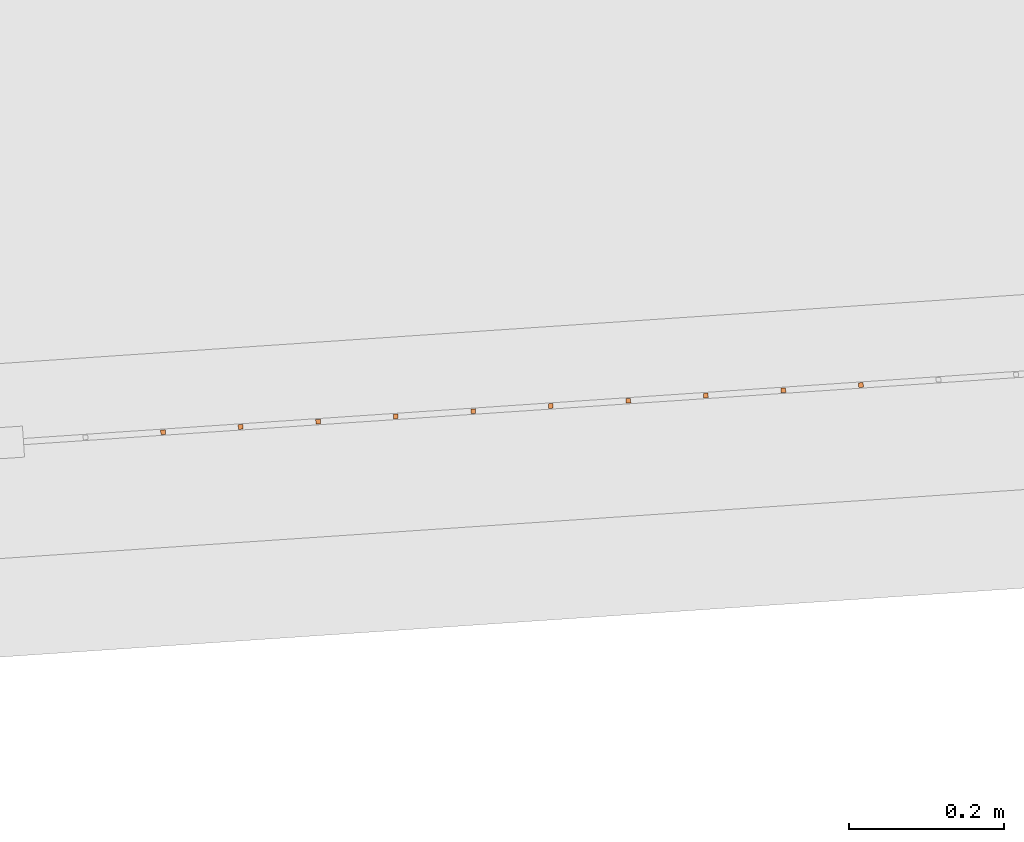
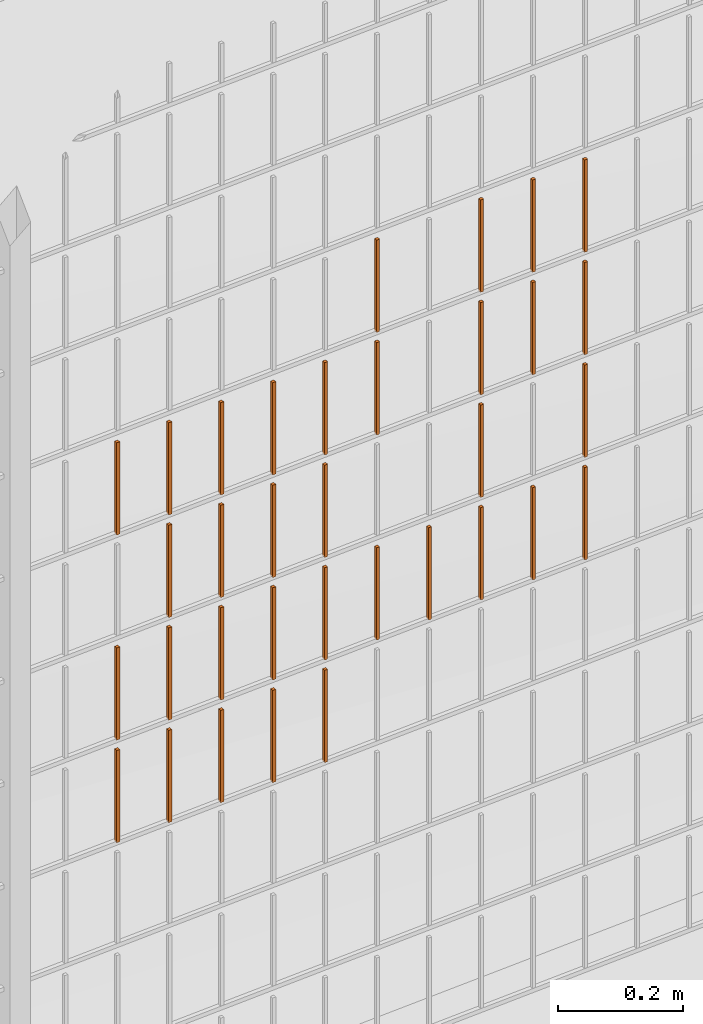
# One storey, part 396 of 1809: 34 proxies, 1 element without a shape of its own.
"""IFC2X3 building model written with IfcOpenShell, lengths in millimetres."""

import ifcopenshell
import ifcopenshell.guid

model = None  # the IFC model being written
_history = None  # IfcOwnerHistory: only IFC2X3 demands one
_inside = {}  # id of a spatial element -> (the spatial element, [elements in it])
_under = {}  # id of a project, library or spatial element -> (it, [spatial elements below it])
_declared = {}  # id of a project -> (the project, [libraries it declares])
_typed = {}  # id of a type object -> (the type object, [elements of that type])
_made_of = {}  # id of a material, layer set ... -> (it, [elements and type objects made of it])


def new_model(schema):
    """Start an empty IFC model of exactly this schema.

    Asked for "IFC4X3", IfcOpenShell would pick the latest addendum, in which some entities
    have other attributes; the version numbers below select the first issue.
    IFC2X3 requires an IfcOwnerHistory on every rooted entity: one is made here for all.
    """
    global model, _history
    if schema == "IFC4X3":
        model = ifcopenshell.file(schema_version=(4, 3, 0, 0))
    else:
        model = ifcopenshell.file(schema=schema)
    _inside.clear()
    _under.clear()
    _declared.clear()
    _typed.clear()
    _made_of.clear()
    _history = None
    if model.schema == "IFC2X3":
        org = make("IfcOrganization", Name="unknown")
        user = make(
            "IfcPersonAndOrganization",
            ThePerson=make("IfcPerson", FamilyName="unknown"),
            TheOrganization=org,
        )
        app = make(
            "IfcApplication",
            ApplicationDeveloper=org,
            Version="unknown",
            ApplicationFullName="unknown",
            ApplicationIdentifier="unknown",
        )
        _history = make(
            "IfcOwnerHistory",
            OwningUser=user,
            OwningApplication=app,
            ChangeAction="ADDED",
            CreationDate=0,
        )
    return model


def make(cls, **values):
    """One entity of the class cls with the attributes given. An attribute that is None is left unset."""
    return model.create_entity(
        cls, **{name: value for name, value in values.items() if value is not None}
    )


def entity(cls, *values):
    """Any entity or typed value of the class cls, its attributes in the order of the schema. None: left unset."""
    e = model.create_entity(cls)
    for i, value in enumerate(values):
        if value is not None:
            e[i] = value
    return e


def rooted(cls, **values):
    """An entity with a GlobalId (a new one), such as an element, a storey or a relation."""
    return make(cls, GlobalId=ifcopenshell.guid.new(), OwnerHistory=_history, **values)


def si_unit(unit_type, name, prefix=None):
    """IfcSIUnit, for example si_unit("LENGTHUNIT", "METRE", prefix="MILLI")."""
    return make("IfcSIUnit", UnitType=unit_type, Prefix=prefix, Name=name)


def converted_unit(unit_type, name, factor, base, dimensions=None, offset=None):
    """IfcConversionBasedUnit, such as the inch: factor (a typed value) times the base unit."""
    return make(
        "IfcConversionBasedUnit"
        if offset is None
        else "IfcConversionBasedUnitWithOffset",
        ConversionOffset=offset,
        Dimensions=None
        if dimensions is None
        else entity("IfcDimensionalExponents", *dimensions),
        UnitType=unit_type,
        Name=name,
        ConversionFactor=make(
            "IfcMeasureWithUnit", ValueComponent=factor, UnitComponent=base
        ),
    )


def derived_unit(unit_type, elements):
    """IfcDerivedUnit: a product of units, each with its exponent."""
    return make(
        "IfcDerivedUnit",
        Elements=[
            make("IfcDerivedUnitElement", Unit=unit, Exponent=power)
            for unit, power in elements
        ],
        UnitType=unit_type,
    )


def money_unit(currency):
    """IfcMonetaryUnit."""
    return make("IfcMonetaryUnit", Currency=currency)


def assignment(units):
    """IfcUnitAssignment: the units of a project."""
    return None if units is None else make("IfcUnitAssignment", Units=units)


def point(xyz):
    """IfcCartesianPoint."""
    return None if xyz is None else make("IfcCartesianPoint", Coordinates=xyz)


def direction(xyz):
    """IfcDirection."""
    return None if xyz is None else make("IfcDirection", DirectionRatios=xyz)


def frame(location, z_axis=None, x_axis=None):
    """IfcAxis2Placement3D, a coordinate frame: its origin and axes. An axis left out is left unset."""
    return make(
        "IfcAxis2Placement3D",
        Location=point(location),
        Axis=direction(z_axis),
        RefDirection=direction(x_axis),
    )


def origin_with_axes():
    """The frame at (0, 0, 0) with the z axis (0, 0, 1) and the x axis (1, 0, 0) written out."""
    return frame((0.0, 0.0, 0.0), z_axis=(0.0, 0.0, 1.0), x_axis=(1.0, 0.0, 0.0))


def place(relative_to, where):
    """IfcLocalPlacement: puts the frame where relative to a parent placement (None: the world)."""
    return make(
        "IfcLocalPlacement", PlacementRelTo=relative_to, RelativePlacement=where
    )


def context(
    kind, dimensions, precision=None, world=None, true_north=None, identifier=None
):
    """IfcGeometricRepresentationContext, for example the 3D "Model" context."""
    return make(
        "IfcGeometricRepresentationContext",
        ContextIdentifier=identifier,
        ContextType=kind,
        CoordinateSpaceDimension=dimensions,
        Precision=precision,
        WorldCoordinateSystem=world,
        TrueNorth=true_north,
    )


def subcontext(parent, identifier, kind, view, scale=None):
    """IfcGeometricRepresentationSubContext, for example "Body" below "Model"."""
    return make(
        "IfcGeometricRepresentationSubContext",
        ContextIdentifier=identifier,
        ContextType=kind,
        ParentContext=parent,
        TargetScale=scale,
        TargetView=view,
    )


def project(units=None, contexts=None):
    """IfcProject with its units and contexts."""
    return rooted(
        "IfcProject",
        Name="project",
        RepresentationContexts=contexts,
        UnitsInContext=assignment(units),
    )


def spatial(cls, under=None, at=None, **own):
    """A site, building, storey or space (cls), placed at a placement, below another one or the project."""
    s = rooted(cls, ObjectPlacement=at, **own)
    if under is not None:
        _under.setdefault(under.id(), (under, []))[1].append(s)
    return s


def faces_of(points, faces, orient=None, outer=None):
    """IfcFace entities. A face is a list of loops; a loop is a list of indices into points, from 0.

    orient and outer hold one flag for each loop. By default every Orientation is true, the
    first loop of a face is its IfcFaceOuterBound and the others are IfcFaceBound.
    """
    made = []
    for i, loops in enumerate(faces):
        bounds = []
        for j, loop in enumerate(loops):
            is_outer = j == 0 if outer is None else outer[i][j]
            bounds.append(
                make(
                    "IfcFaceOuterBound" if is_outer else "IfcFaceBound",
                    Bound=make("IfcPolyLoop", Polygon=[points[k] for k in loop]),
                    Orientation=True if orient is None else orient[i][j],
                )
            )
        made.append(make("IfcFace", Bounds=bounds))
    return made


def faceted_brep(points, faces, orient=None, outer=None, voids=None):
    """IfcFacetedBrep: a solid bounded by flat faces; with voids (closed shells), ...WithVoids."""
    shared = [point(p) for p in points]
    hull = make("IfcClosedShell", CfsFaces=faces_of(shared, faces, orient, outer))
    if voids is None:
        return make("IfcFacetedBrep", Outer=hull)
    return make(
        "IfcFacetedBrepWithVoids",
        Outer=hull,
        Voids=[
            make(cls, CfsFaces=faces_of(shared, fs, o, b)) for cls, fs, o, b in voids
        ],
    )


def shape(context_of_items, identifier, shape_type, items):
    """IfcShapeRepresentation: the items that make up one representation, for example the "Body"."""
    return make(
        "IfcShapeRepresentation",
        ContextOfItems=context_of_items,
        RepresentationIdentifier=identifier,
        RepresentationType=shape_type,
        Items=items,
    )


def source(mapping_origin, context_of_items, identifier, shape_type, items):
    """IfcRepresentationMap: a shape defined once, which mapped items show again and again."""
    return make(
        "IfcRepresentationMap",
        MappingOrigin=mapping_origin,
        MappedRepresentation=shape(context_of_items, identifier, shape_type, items),
    )


def transform(
    local_origin,
    x_axis=None,
    y_axis=None,
    z_axis=None,
    scale=None,
    scale2=None,
    scale3=None,
    uniform=True,
):
    """IfcCartesianTransformationOperator3D, or its non-uniform kind. x_axis, y_axis, z_axis: its Axis1, 2, 3."""
    if uniform:
        return make(
            "IfcCartesianTransformationOperator3D",
            Axis1=direction(x_axis),
            Axis2=direction(y_axis),
            LocalOrigin=point(local_origin),
            Scale=scale,
            Axis3=direction(z_axis),
        )
    return make(
        "IfcCartesianTransformationOperator3DnonUniform",
        Axis1=direction(x_axis),
        Axis2=direction(y_axis),
        LocalOrigin=point(local_origin),
        Scale=scale,
        Axis3=direction(z_axis),
        Scale2=scale2,
        Scale3=scale3,
    )


def mapped(mapping_source, mapping_target):
    """IfcMappedItem: shows the shape of a source again, moved by a transform."""
    return make(
        "IfcMappedItem", MappingSource=mapping_source, MappingTarget=mapping_target
    )


def material(Name=None, Category=None):
    """IfcMaterial."""
    return make("IfcMaterial", Name=Name, Category=Category)


def made_of(thing, what):
    """Note that an element or type object is made of a material, layer set ...; save() writes the relation."""
    if what is not None:
        _made_of.setdefault(what.id(), (what, []))[1].append(thing)
    return thing


def type_object(cls, material=None, **own):
    """A type object (cls), such as IfcWallType, which elements share."""
    return made_of(rooted(cls, **own), material)


def element(
    cls,
    number,
    at=None,
    inside=None,
    cuts=None,
    type_object=None,
    material=None,
    context=None,
    identifier="Body",
    shape_type=None,
    held_by="IfcProductDefinitionShape",
    body=None,
    shapes=None,
    **own,
):
    """One element of the class cls, such as IfcWall. Its Tag is "e" and its number.

    at: its placement. inside: the storey or other place that contains it. cuts: it is an
    opening in that element (IfcRelVoidsElement). A single representation is given by context,
    identifier, shape_type and body (its items); several are given by shapes. held_by: the class
    of the entity that holds the representations. save() writes the other relations.
    """
    e = rooted(cls, Tag="e%d" % number, ObjectPlacement=at, **own)
    if body is not None:
        shapes = [shape(context, identifier, shape_type, body)]
    if shapes is not None:
        e.Representation = make(held_by, Representations=shapes)
    if inside is not None:
        _inside.setdefault(inside.id(), (inside, []))[1].append(e)
    if cuts is not None:
        rooted(
            "IfcRelVoidsElement", RelatingBuildingElement=cuts, RelatedOpeningElement=e
        )
    if type_object is not None:
        _typed.setdefault(type_object.id(), (type_object, []))[1].append(e)
    return made_of(e, material)


def aggregate(whole, parts):
    """IfcRelAggregates: a whole, such as a stair, and the parts it consists of."""
    return rooted("IfcRelAggregates", RelatingObject=whole, RelatedObjects=parts)


def save(model, path):
    """Write the relations noted so far, then the file.

    IfcRelAggregates (storeys below a building ...), IfcRelContainedInSpatialStructure (elements
    in a storey), IfcRelDefinesByType, IfcRelAssociatesMaterial and IfcRelDeclares: one each for
    every whole, place, type object, material and project.
    """
    for whole, parts in _under.values():
        aggregate(whole, parts)
    for where, things in _inside.values():
        rooted(
            "IfcRelContainedInSpatialStructure",
            RelatedElements=things,
            RelatingStructure=where,
        )
    for kind, things in _typed.values():
        rooted("IfcRelDefinesByType", RelatedObjects=things, RelatingType=kind)
    for what, things in _made_of.values():
        rooted("IfcRelAssociatesMaterial", RelatedObjects=things, RelatingMaterial=what)
    for by, libraries in _declared.values():
        rooted("IfcRelDeclares", RelatingContext=by, RelatedDefinitions=libraries)
    model.write(path)


model = new_model("IFC2X3")

# Units and contexts
model_context = context("Model", 3, precision=0.01, world=origin_with_axes(), true_north=direction((0.0, 1.0)))
body_context = subcontext(model_context, "Body", "Model", "MODEL_VIEW")
ifc_project = project(units=[si_unit("LENGTHUNIT", "METRE", prefix="MILLI"), si_unit("AREAUNIT", "SQUARE_METRE"), si_unit("VOLUMEUNIT", "CUBIC_METRE"), converted_unit("PLANEANGLEUNIT", "DEGREE", entity("IfcPlaneAngleMeasure", 0.0174532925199), si_unit("PLANEANGLEUNIT", "RADIAN"), dimensions=[0, 0, 0, 0, 0, 0, 0]), si_unit("SOLIDANGLEUNIT", "STERADIAN"), money_unit("EUR"), converted_unit("TIMEUNIT", "Year", entity("IfcTimeMeasure", 31556926.0), si_unit("TIMEUNIT", "SECOND"), dimensions=[0, 0, 1, 0, 0, 0, 0]), si_unit("MASSUNIT", "GRAM", prefix="KILO"), si_unit("THERMODYNAMICTEMPERATUREUNIT", "DEGREE_CELSIUS"), si_unit("LUMINOUSINTENSITYUNIT", "LUMEN"), si_unit("ENERGYUNIT", "JOULE", prefix="MEGA"), derived_unit("THERMALCONDUCTANCEUNIT", [(si_unit("POWERUNIT", "WATT"), 1), (si_unit("LENGTHUNIT", "METRE"), -1), (si_unit("THERMODYNAMICTEMPERATUREUNIT", "KELVIN"), -1)]), derived_unit("SPECIFICHEATCAPACITYUNIT", [(si_unit("ENERGYUNIT", "JOULE"), 1), (si_unit("MASSUNIT", "GRAM", prefix="KILO"), -1), (si_unit("THERMODYNAMICTEMPERATUREUNIT", "KELVIN"), -1)]), derived_unit("MASSDENSITYUNIT", [(si_unit("MASSUNIT", "GRAM", prefix="KILO"), 1), (si_unit("VOLUMEUNIT", "CUBIC_METRE"), -1)])], contexts=[model_context])

# Site, building, storey
site_placement = place(None, origin_with_axes())
site = spatial("IfcSite", under=ifc_project, at=site_placement, Name="Politse- ja Piirivalveameti ning Päästeameti ühishoone", CompositionType="ELEMENT")
building_placement = place(site_placement, origin_with_axes())
building = spatial("IfcBuilding", under=site, at=building_placement, Name="Politse- ja Piirivalveameti ning Päästeameti ühishoone", CompositionType="ELEMENT")
storey_placement = place(building_placement, origin_with_axes())
storey = spatial("IfcBuildingStorey", under=building, at=storey_placement, Name="Esimene korrus", CompositionType="ELEMENT", Elevation=0.0)

# Proxies
building_element_proxy_type_1 = type_object("IfcBuildingElementProxyType", Name="Railing Type", PredefinedType="NOTDEFINED")
proxy_1_placement = place(storey_placement, frame((89252.001212, -29183.4766571, 203.661247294), z_axis=(0.0, 0.0, 1.0), x_axis=(1.0, 0.0, 0.0)))
proxy_1 = element("IfcBuildingElementProxy", 1, at=proxy_1_placement, inside=storey, type_object=building_element_proxy_type_1, Name="PIIRDEAED")
ifc_material = material(Name="ET-03_Raud")
building_element_proxy_type_2 = type_object("IfcBuildingElementProxyType", Name="IfcBuildingElementProxy", PredefinedType="NOTDEFINED")
shared_shape_1 = source(origin_with_axes(), body_context, "Body", "Brep", [
    faceted_brep([(3.0, 3.0, -0.000752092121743), (-3.0, 3.0, -0.000752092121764), (-3.0, 3.0, 179.99926046), (3.0, 3.0, 179.99926046), (3.0, -3.0, 0.000752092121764), (-3.0, -3.0, 0.000752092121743), (-3.0, -3.0, 180.000764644), (3.0, -3.0, 180.000764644)], [[[0, 1, 2, 3]], [[0, 4, 5, 1]], [[1, 5, 6, 2]], [[3, 2, 6, 7]], [[4, 0, 3, 7]], [[5, 4, 7, 6]]]),
])
proxy_2_placement = place(proxy_1_placement, frame((-11201.1644338, -18054.3711474, 1424.41988432), z_axis=(0.0, 0.0, 1.0), x_axis=(1.0, 0.0, 0.0)))
proxy_2 = element("IfcBuildingElementProxy", 2, at=proxy_2_placement, type_object=building_element_proxy_type_2, material=ifc_material, Name="BALUSTER - 001", context=body_context, shape_type="MappedRepresentation", body=[
    mapped(shared_shape_1, transform((0.0, 0.0, 0.0), x_axis=(-0.0673926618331, 0.997726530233, 0.0), y_axis=(-0.997726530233, -0.0673926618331, 0.0), z_axis=(0.0, 0.0, 1.0))),
])
shared_shape_2 = source(origin_with_axes(), body_context, "Body", "Brep", [
    faceted_brep([(3.0, 3.0, -0.000752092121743), (-3.0, 3.0, -0.000752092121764), (-3.0, 3.0, 179.99926046), (3.0, 3.0, 179.99926046), (3.0, -3.0, 0.000752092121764), (-3.0, -3.0, 0.000752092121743), (-3.0, -3.0, 180.000764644), (3.0, -3.0, 180.000764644)], [[[0, 1, 2, 3]], [[0, 4, 5, 1]], [[1, 5, 6, 2]], [[3, 2, 6, 7]], [[4, 0, 3, 7]], [[5, 4, 7, 6]]]),
])
proxy_3_placement = place(proxy_1_placement, frame((-11799.8003519, -18094.8067445, 624.269465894), z_axis=(0.0, 0.0, 1.0), x_axis=(1.0, 0.0, 0.0)))
proxy_3 = element("IfcBuildingElementProxy", 3, at=proxy_3_placement, type_object=building_element_proxy_type_2, material=ifc_material, Name="BALUSTER - 001", context=body_context, shape_type="MappedRepresentation", body=[
    mapped(shared_shape_2, transform((0.0, 0.0, 0.0), x_axis=(-0.0673926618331, 0.997726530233, 0.0), y_axis=(-0.997726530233, -0.0673926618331, 0.0), z_axis=(0.0, 0.0, 1.0))),
])
shared_shape_3 = source(origin_with_axes(), body_context, "Body", "Brep", [
    faceted_brep([(3.0, 3.0, -0.000752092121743), (-3.0, 3.0, -0.000752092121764), (-3.0, 3.0, 179.99926046), (3.0, 3.0, 179.99926046), (3.0, -3.0, 0.000752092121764), (-3.0, -3.0, 0.000752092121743), (-3.0, -3.0, 180.000764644), (3.0, -3.0, 180.000764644)], [[[0, 1, 2, 3]], [[0, 4, 5, 1]], [[1, 5, 6, 2]], [[3, 2, 6, 7]], [[4, 0, 3, 7]], [[5, 4, 7, 6]]]),
])
proxy_4_placement = place(proxy_1_placement, frame((-11201.1644338, -18054.3711474, 1224.41988432), z_axis=(0.0, 0.0, 1.0), x_axis=(1.0, 0.0, 0.0)))
proxy_4 = element("IfcBuildingElementProxy", 4, at=proxy_4_placement, type_object=building_element_proxy_type_2, material=ifc_material, Name="BALUSTER - 001", context=body_context, shape_type="MappedRepresentation", body=[
    mapped(shared_shape_3, transform((0.0, 0.0, 0.0), x_axis=(-0.0673926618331, 0.997726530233, 0.0), y_axis=(-0.997726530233, -0.0673926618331, 0.0), z_axis=(0.0, 0.0, 1.0))),
])
shared_shape_4 = source(origin_with_axes(), body_context, "Body", "Brep", [
    faceted_brep([(3.0, 3.0, -0.000752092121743), (-3.0, 3.0, -0.000752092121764), (-3.0, 3.0, 179.99926046), (3.0, 3.0, 179.99926046), (3.0, -3.0, 0.000752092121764), (-3.0, -3.0, 0.000752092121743), (-3.0, -3.0, 180.000764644), (3.0, -3.0, 180.000764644)], [[[0, 1, 2, 3]], [[0, 4, 5, 1]], [[1, 5, 6, 2]], [[3, 2, 6, 7]], [[4, 0, 3, 7]], [[5, 4, 7, 6]]]),
])
proxy_5_placement = place(proxy_1_placement, frame((-11799.8003519, -18094.8067445, 824.269465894), z_axis=(0.0, 0.0, 1.0), x_axis=(1.0, 0.0, 0.0)))
proxy_5 = element("IfcBuildingElementProxy", 5, at=proxy_5_placement, type_object=building_element_proxy_type_2, material=ifc_material, Name="BALUSTER - 001", context=body_context, shape_type="MappedRepresentation", body=[
    mapped(shared_shape_4, transform((0.0, 0.0, 0.0), x_axis=(-0.0673926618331, 0.997726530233, 0.0), y_axis=(-0.997726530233, -0.0673926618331, 0.0), z_axis=(0.0, 0.0, 1.0))),
])
proxy_6_placement = place(proxy_1_placement, frame((-11899.573005, -18101.5460107, 824.244396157), z_axis=(0.0, 0.0, 1.0), x_axis=(1.0, 0.0, 0.0)))
proxy_6 = element("IfcBuildingElementProxy", 6, at=proxy_6_placement, type_object=building_element_proxy_type_2, material=ifc_material, Name="BALUSTER - 001", context=body_context, shape_type="MappedRepresentation", body=[
    mapped(shared_shape_4, transform((0.0, 0.0, 0.0), x_axis=(-0.0673926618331, 0.997726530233, 0.0), y_axis=(-0.997726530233, -0.0673926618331, 0.0), z_axis=(0.0, 0.0, 1.0))),
])
proxy_7_placement = place(proxy_1_placement, frame((-11899.573005, -18101.5460107, 1224.24439616), z_axis=(0.0, 0.0, 1.0), x_axis=(1.0, 0.0, 0.0)))
proxy_7 = element("IfcBuildingElementProxy", 7, at=proxy_7_placement, type_object=building_element_proxy_type_2, material=ifc_material, Name="BALUSTER - 001", context=body_context, shape_type="MappedRepresentation", body=[
    mapped(shared_shape_4, transform((0.0, 0.0, 0.0), x_axis=(-0.0673926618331, 0.997726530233, 0.0), y_axis=(-0.997726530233, -0.0673926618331, 0.0), z_axis=(0.0, 0.0, 1.0))),
])
shared_shape_5 = source(origin_with_axes(), body_context, "Body", "Brep", [
    faceted_brep([(3.0, 3.0, -0.000752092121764), (-3.0, 3.0, -0.000752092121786), (-3.0, 3.0, 179.99926046), (3.0, 3.0, 179.99926046), (3.0, -3.0, 0.000752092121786), (-3.0, -3.0, 0.000752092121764), (-3.0, -3.0, 180.000764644), (3.0, -3.0, 180.000764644)], [[[0, 1, 2, 3]], [[0, 4, 5, 1]], [[1, 5, 6, 2]], [[3, 2, 6, 7]], [[4, 0, 3, 7]], [[5, 4, 7, 6]]]),
])
proxy_8_placement = place(proxy_1_placement, frame((-11999.345658, -18108.2852769, 624.219326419), z_axis=(0.0, 0.0, 1.0), x_axis=(1.0, 0.0, 0.0)))
proxy_8 = element("IfcBuildingElementProxy", 8, at=proxy_8_placement, type_object=building_element_proxy_type_2, material=ifc_material, Name="BALUSTER - 001", context=body_context, shape_type="MappedRepresentation", body=[
    mapped(shared_shape_5, transform((0.0, 0.0, 0.0), x_axis=(-0.0673926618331, 0.997726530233, 0.0), y_axis=(-0.997726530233, -0.0673926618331, 0.0), z_axis=(0.0, 0.0, 1.0))),
])
shared_shape_6 = source(origin_with_axes(), body_context, "Body", "Brep", [
    faceted_brep([(3.0, 3.0, -0.000752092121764), (-3.0, 3.0, -0.000752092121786), (-3.0, 3.0, 179.99926046), (3.0, 3.0, 179.99926046), (3.0, -3.0, 0.000752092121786), (-3.0, -3.0, 0.000752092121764), (-3.0, -3.0, 180.000764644), (3.0, -3.0, 180.000764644)], [[[0, 1, 2, 3]], [[0, 4, 5, 1]], [[1, 5, 6, 2]], [[3, 2, 6, 7]], [[4, 0, 3, 7]], [[5, 4, 7, 6]]]),
])
proxy_9_placement = place(proxy_1_placement, frame((-11300.9370868, -18061.1104136, 824.394814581), z_axis=(0.0, 0.0, 1.0), x_axis=(1.0, 0.0, 0.0)))
proxy_9 = element("IfcBuildingElementProxy", 9, at=proxy_9_placement, type_object=building_element_proxy_type_2, material=ifc_material, Name="BALUSTER - 001", context=body_context, shape_type="MappedRepresentation", body=[
    mapped(shared_shape_6, transform((0.0, 0.0, 0.0), x_axis=(-0.0673926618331, 0.997726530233, 0.0), y_axis=(-0.997726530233, -0.0673926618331, 0.0), z_axis=(0.0, 0.0, 1.0))),
])
proxy_10_placement = place(proxy_1_placement, frame((-11400.7097398, -18067.8496798, 1224.36974484), z_axis=(0.0, 0.0, 1.0), x_axis=(1.0, 0.0, 0.0)))
proxy_10 = element("IfcBuildingElementProxy", 10, at=proxy_10_placement, type_object=building_element_proxy_type_2, material=ifc_material, Name="BALUSTER - 001", context=body_context, shape_type="MappedRepresentation", body=[
    mapped(shared_shape_6, transform((0.0, 0.0, 0.0), x_axis=(-0.0673926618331, 0.997726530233, 0.0), y_axis=(-0.997726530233, -0.0673926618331, 0.0), z_axis=(0.0, 0.0, 1.0))),
])
proxy_11_placement = place(proxy_1_placement, frame((-11999.345658, -18108.2852769, 1224.21932642), z_axis=(0.0, 0.0, 1.0), x_axis=(1.0, 0.0, 0.0)))
proxy_11 = element("IfcBuildingElementProxy", 11, at=proxy_11_placement, type_object=building_element_proxy_type_2, material=ifc_material, Name="BALUSTER - 001", context=body_context, shape_type="MappedRepresentation", body=[
    mapped(shared_shape_6, transform((0.0, 0.0, 0.0), x_axis=(-0.0673926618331, 0.997726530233, 0.0), y_axis=(-0.997726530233, -0.0673926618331, 0.0), z_axis=(0.0, 0.0, 1.0))),
])
shared_shape_7 = source(origin_with_axes(), body_context, "Body", "Brep", [
    faceted_brep([(3.0, 3.0, -0.000752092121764), (-3.0, 3.0, -0.000752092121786), (-3.0, 3.0, 179.99926046), (3.0, 3.0, 179.99926046), (3.0, -3.0, 0.000752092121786), (-3.0, -3.0, 0.000752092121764), (-3.0, -3.0, 180.000764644), (3.0, -3.0, 180.000764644)], [[[0, 1, 2, 3]], [[0, 4, 5, 1]], [[1, 5, 6, 2]], [[3, 2, 6, 7]], [[4, 0, 3, 7]], [[5, 4, 7, 6]]]),
])
proxy_12_placement = place(proxy_1_placement, frame((-11400.7097398, -18067.8496798, 824.369744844), z_axis=(0.0, 0.0, 1.0), x_axis=(1.0, 0.0, 0.0)))
proxy_12 = element("IfcBuildingElementProxy", 12, at=proxy_12_placement, type_object=building_element_proxy_type_2, material=ifc_material, Name="BALUSTER - 001", context=body_context, shape_type="MappedRepresentation", body=[
    mapped(shared_shape_7, transform((0.0, 0.0, 0.0), x_axis=(-0.0673926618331, 0.997726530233, 0.0), y_axis=(-0.997726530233, -0.0673926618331, 0.0), z_axis=(0.0, 0.0, 1.0))),
])
proxy_13_placement = place(proxy_1_placement, frame((-11999.345658, -18108.2852769, 824.219326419), z_axis=(0.0, 0.0, 1.0), x_axis=(1.0, 0.0, 0.0)))
proxy_13 = element("IfcBuildingElementProxy", 13, at=proxy_13_placement, type_object=building_element_proxy_type_2, material=ifc_material, Name="BALUSTER - 001", context=body_context, shape_type="MappedRepresentation", body=[
    mapped(shared_shape_7, transform((0.0, 0.0, 0.0), x_axis=(-0.0673926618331, 0.997726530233, 0.0), y_axis=(-0.997726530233, -0.0673926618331, 0.0), z_axis=(0.0, 0.0, 1.0))),
])
proxy_14_placement = place(proxy_1_placement, frame((-11300.9370868, -18061.1104136, 1224.39481458), z_axis=(0.0, 0.0, 1.0), x_axis=(1.0, 0.0, 0.0)))
proxy_14 = element("IfcBuildingElementProxy", 14, at=proxy_14_placement, type_object=building_element_proxy_type_2, material=ifc_material, Name="BALUSTER - 001", context=body_context, shape_type="MappedRepresentation", body=[
    mapped(shared_shape_7, transform((0.0, 0.0, 0.0), x_axis=(-0.0673926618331, 0.997726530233, 0.0), y_axis=(-0.997726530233, -0.0673926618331, 0.0), z_axis=(0.0, 0.0, 1.0))),
])
shared_shape_8 = source(origin_with_axes(), body_context, "Body", "Brep", [
    faceted_brep([(3.0, 3.0, -0.000752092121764), (-3.0, 3.0, -0.000752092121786), (-3.0, 3.0, 179.99926046), (3.0, 3.0, 179.99926046), (3.0, -3.0, 0.000752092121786), (-3.0, -3.0, 0.000752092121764), (-3.0, -3.0, 180.000764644), (3.0, -3.0, 180.000764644)], [[[0, 1, 2, 3]], [[0, 4, 5, 1]], [[1, 5, 6, 2]], [[3, 2, 6, 7]], [[4, 0, 3, 7]], [[5, 4, 7, 6]]]),
])
proxy_15_placement = place(proxy_1_placement, frame((-11201.1644338, -18054.3711474, 824.419884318), z_axis=(0.0, 0.0, 1.0), x_axis=(1.0, 0.0, 0.0)))
proxy_15 = element("IfcBuildingElementProxy", 15, at=proxy_15_placement, type_object=building_element_proxy_type_2, material=ifc_material, Name="BALUSTER - 001", context=body_context, shape_type="MappedRepresentation", body=[
    mapped(shared_shape_8, transform((0.0, 0.0, 0.0), x_axis=(-0.0673926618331, 0.997726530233, 0.0), y_axis=(-0.997726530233, -0.0673926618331, 0.0), z_axis=(0.0, 0.0, 1.0))),
])
proxy_16_placement = place(proxy_1_placement, frame((-12099.118311, -18115.0245431, 1224.19425668), z_axis=(0.0, 0.0, 1.0), x_axis=(1.0, 0.0, 0.0)))
proxy_16 = element("IfcBuildingElementProxy", 16, at=proxy_16_placement, type_object=building_element_proxy_type_2, material=ifc_material, Name="BALUSTER - 001", context=body_context, shape_type="MappedRepresentation", body=[
    mapped(shared_shape_8, transform((0.0, 0.0, 0.0), x_axis=(-0.0673926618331, 0.997726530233, 0.0), y_axis=(-0.997726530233, -0.0673926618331, 0.0), z_axis=(0.0, 0.0, 1.0))),
])
shared_shape_9 = source(origin_with_axes(), body_context, "Body", "Brep", [
    faceted_brep([(3.0, 3.0, -0.000752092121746), (-3.0, 3.0, -0.000752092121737), (-3.00000000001, 2.99999999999, 179.99926046), (2.99999999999, 2.99999999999, 179.99926046), (3.0, -3.0, 0.000752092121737), (-3.0, -3.0, 0.000752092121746), (-3.00000000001, -3.00000000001, 180.000764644), (2.99999999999, -3.00000000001, 180.000764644)], [[[0, 1, 2, 3]], [[0, 4, 5, 1]], [[1, 5, 6, 2]], [[3, 2, 6, 7]], [[4, 0, 3, 7]], [[5, 4, 7, 6]]]),
])
proxy_17_placement = place(proxy_1_placement, frame((-11899.573005, -18101.5460107, 1024.24439616), z_axis=(0.0, 0.0, 1.0), x_axis=(1.0, 0.0, 0.0)))
proxy_17 = element("IfcBuildingElementProxy", 17, at=proxy_17_placement, type_object=building_element_proxy_type_2, material=ifc_material, Name="BALUSTER - 001", context=body_context, shape_type="MappedRepresentation", body=[
    mapped(shared_shape_9, transform((0.0, 0.0, 0.0), x_axis=(-0.0673926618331, 0.997726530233, 0.0), y_axis=(-0.997726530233, -0.0673926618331, 0.0), z_axis=(0.0, 0.0, 1.0))),
])
shared_shape_10 = source(origin_with_axes(), body_context, "Body", "Brep", [
    faceted_brep([(3.0, 3.0, -0.000752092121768), (-3.0, 3.0, -0.000752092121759), (-3.00000000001, 2.99999999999, 179.99926046), (2.99999999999, 2.99999999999, 179.99926046), (3.0, -3.0, 0.000752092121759), (-3.0, -3.0, 0.000752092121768), (-3.00000000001, -3.00000000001, 180.000764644), (2.99999999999, -3.00000000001, 180.000764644)], [[[0, 1, 2, 3]], [[0, 4, 5, 1]], [[1, 5, 6, 2]], [[3, 2, 6, 7]], [[4, 0, 3, 7]], [[5, 4, 7, 6]]]),
])
proxy_18_placement = place(proxy_1_placement, frame((-11201.1644338, -18054.3711474, 1024.41988432), z_axis=(0.0, 0.0, 1.0), x_axis=(1.0, 0.0, 0.0)))
proxy_18 = element("IfcBuildingElementProxy", 18, at=proxy_18_placement, type_object=building_element_proxy_type_2, material=ifc_material, Name="BALUSTER - 001", context=body_context, shape_type="MappedRepresentation", body=[
    mapped(shared_shape_10, transform((0.0, 0.0, 0.0), x_axis=(-0.0673926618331, 0.997726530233, 0.0), y_axis=(-0.997726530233, -0.0673926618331, 0.0), z_axis=(0.0, 0.0, 1.0))),
])
shared_shape_11 = source(origin_with_axes(), body_context, "Body", "Brep", [
    faceted_brep([(3.0, 3.0, -0.000752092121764), (-3.0, 3.0, -0.000752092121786), (-3.0, 3.0, 179.99926046), (3.0, 3.0, 179.99926046), (3.0, -3.0, 0.000752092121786), (-3.0, -3.0, 0.000752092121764), (-3.0, -3.0, 180.000764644), (3.0, -3.0, 180.000764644)], [[[0, 1, 2, 3]], [[0, 4, 5, 1]], [[1, 5, 6, 2]], [[3, 2, 6, 7]], [[4, 0, 3, 7]], [[5, 4, 7, 6]]]),
])
proxy_19_placement = place(proxy_1_placement, frame((-11700.0276989, -18088.0674784, 1224.29453563), z_axis=(0.0, 0.0, 1.0), x_axis=(1.0, 0.0, 0.0)))
proxy_19 = element("IfcBuildingElementProxy", 19, at=proxy_19_placement, type_object=building_element_proxy_type_2, material=ifc_material, Name="BALUSTER - 001", context=body_context, shape_type="MappedRepresentation", body=[
    mapped(shared_shape_11, transform((0.0, 0.0, 0.0), x_axis=(-0.0673926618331, 0.997726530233, 0.0), y_axis=(-0.997726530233, -0.0673926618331, 0.0), z_axis=(0.0, 0.0, 1.0))),
])
shared_shape_12 = source(origin_with_axes(), body_context, "Body", "Brep", [
    faceted_brep([(3.0, 3.0, -0.000752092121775), (-3.0, 3.0, -0.000752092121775), (-3.0, 3.0, 179.99926046), (3.0, 3.0, 179.99926046), (3.0, -3.0, 0.000752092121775), (-3.0, -3.0, 0.000752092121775), (-3.0, -3.0, 180.000764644), (3.0, -3.0, 180.000764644)], [[[0, 1, 2, 3]], [[0, 4, 5, 1]], [[1, 5, 6, 2]], [[3, 2, 6, 7]], [[4, 0, 3, 7]], [[5, 4, 7, 6]]]),
])
proxy_20_placement = place(proxy_1_placement, frame((-11700.0276989, -18088.0674784, 824.294535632), z_axis=(0.0, 0.0, 1.0), x_axis=(1.0, 0.0, 0.0)))
proxy_20 = element("IfcBuildingElementProxy", 20, at=proxy_20_placement, type_object=building_element_proxy_type_2, material=ifc_material, Name="BALUSTER - 001", context=body_context, shape_type="MappedRepresentation", body=[
    mapped(shared_shape_12, transform((0.0, 0.0, 0.0), x_axis=(-0.0673926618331, 0.997726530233, 0.0), y_axis=(-0.997726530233, -0.0673926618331, 0.0), z_axis=(0.0, 0.0, 1.0))),
])
shared_shape_13 = source(origin_with_axes(), body_context, "Body", "Brep", [
    faceted_brep([(3.0, 3.0, -0.000752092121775), (-3.0, 3.0, -0.000752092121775), (-3.0, 3.0, 179.99926046), (3.0, 3.0, 179.99926046), (3.0, -3.0, 0.000752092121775), (-3.0, -3.0, 0.000752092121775), (-3.0, -3.0, 180.000764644), (3.0, -3.0, 180.000764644)], [[[0, 1, 2, 3]], [[0, 4, 5, 1]], [[1, 5, 6, 2]], [[3, 2, 6, 7]], [[4, 0, 3, 7]], [[5, 4, 7, 6]]]),
])
proxy_21_placement = place(proxy_1_placement, frame((-12099.118311, -18115.0245431, 824.194256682), z_axis=(0.0, 0.0, 1.0), x_axis=(1.0, 0.0, 0.0)))
proxy_21 = element("IfcBuildingElementProxy", 21, at=proxy_21_placement, type_object=building_element_proxy_type_2, material=ifc_material, Name="BALUSTER - 001", context=body_context, shape_type="MappedRepresentation", body=[
    mapped(shared_shape_13, transform((0.0, 0.0, 0.0), x_axis=(-0.0673926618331, 0.997726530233, 0.0), y_axis=(-0.997726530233, -0.0673926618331, 0.0), z_axis=(0.0, 0.0, 1.0))),
])
shared_shape_14 = source(origin_with_axes(), body_context, "Body", "Brep", [
    faceted_brep([(3.0, 3.0, -0.000752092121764), (-3.0, 3.0, -0.000752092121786), (-3.0, 3.0, 179.99926046), (3.0, 3.0, 179.99926046), (3.0, -3.0, 0.000752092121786), (-3.0, -3.0, 0.000752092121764), (-3.0, -3.0, 180.000764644), (3.0, -3.0, 180.000764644)], [[[0, 1, 2, 3]], [[0, 4, 5, 1]], [[1, 5, 6, 2]], [[3, 2, 6, 7]], [[4, 0, 3, 7]], [[5, 4, 7, 6]]]),
])
proxy_22_placement = place(proxy_1_placement, frame((-11300.9370868, -18061.1104136, 1424.39481458), z_axis=(0.0, 0.0, 1.0), x_axis=(1.0, 0.0, 0.0)))
proxy_22 = element("IfcBuildingElementProxy", 22, at=proxy_22_placement, type_object=building_element_proxy_type_2, material=ifc_material, Name="BALUSTER - 001", context=body_context, shape_type="MappedRepresentation", body=[
    mapped(shared_shape_14, transform((0.0, 0.0, 0.0), x_axis=(-0.0673926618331, 0.997726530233, 0.0), y_axis=(-0.997726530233, -0.0673926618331, 0.0), z_axis=(0.0, 0.0, 1.0))),
])
shared_shape_15 = source(origin_with_axes(), body_context, "Body", "Brep", [
    faceted_brep([(3.0, 3.0, -0.000752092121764), (-3.0, 3.0, -0.000752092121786), (-3.0, 3.0, 179.99926046), (3.0, 3.0, 179.99926046), (3.0, -3.0, 0.000752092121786), (-3.0, -3.0, 0.000752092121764), (-3.0, -3.0, 180.000764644), (3.0, -3.0, 180.000764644)], [[[0, 1, 2, 3]], [[0, 4, 5, 1]], [[1, 5, 6, 2]], [[3, 2, 6, 7]], [[4, 0, 3, 7]], [[5, 4, 7, 6]]]),
])
proxy_23_placement = place(proxy_1_placement, frame((-11400.7097398, -18067.8496798, 1424.36974484), z_axis=(0.0, 0.0, 1.0), x_axis=(1.0, 0.0, 0.0)))
proxy_23 = element("IfcBuildingElementProxy", 23, at=proxy_23_placement, type_object=building_element_proxy_type_2, material=ifc_material, Name="BALUSTER - 001", context=body_context, shape_type="MappedRepresentation", body=[
    mapped(shared_shape_15, transform((0.0, 0.0, 0.0), x_axis=(-0.0673926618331, 0.997726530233, 0.0), y_axis=(-0.997726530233, -0.0673926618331, 0.0), z_axis=(0.0, 0.0, 1.0))),
])
shared_shape_16 = source(origin_with_axes(), body_context, "Body", "Brep", [
    faceted_brep([(3.0, 3.0, -0.000752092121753), (-3.0, 3.0, -0.000752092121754), (-3.0, 3.0, 179.99926046), (3.0, 3.0, 179.99926046), (3.0, -3.0, 0.000752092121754), (-3.0, -3.0, 0.000752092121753), (-3.0, -3.0, 180.000764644), (3.0, -3.0, 180.000764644)], [[[0, 1, 2, 3]], [[0, 4, 5, 1]], [[1, 5, 6, 2]], [[3, 2, 6, 7]], [[4, 0, 3, 7]], [[5, 4, 7, 6]]]),
])
proxy_24_placement = place(proxy_1_placement, frame((-11500.4823929, -18074.588946, 824.344675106), z_axis=(0.0, 0.0, 1.0), x_axis=(1.0, 0.0, 0.0)))
proxy_24 = element("IfcBuildingElementProxy", 24, at=proxy_24_placement, type_object=building_element_proxy_type_2, material=ifc_material, Name="BALUSTER - 001", context=body_context, shape_type="MappedRepresentation", body=[
    mapped(shared_shape_16, transform((0.0, 0.0, 0.0), x_axis=(-0.0673926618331, 0.997726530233, 0.0), y_axis=(-0.997726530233, -0.0673926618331, 0.0), z_axis=(0.0, 0.0, 1.0))),
])
proxy_25_placement = place(proxy_1_placement, frame((-11799.8003519, -18094.8067445, 1224.26946589), z_axis=(0.0, 0.0, 1.0), x_axis=(1.0, 0.0, 0.0)))
proxy_25 = element("IfcBuildingElementProxy", 25, at=proxy_25_placement, type_object=building_element_proxy_type_2, material=ifc_material, Name="BALUSTER - 001", context=body_context, shape_type="MappedRepresentation", body=[
    mapped(shared_shape_16, transform((0.0, 0.0, 0.0), x_axis=(-0.0673926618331, 0.997726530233, 0.0), y_axis=(-0.997726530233, -0.0673926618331, 0.0), z_axis=(0.0, 0.0, 1.0))),
])
shared_shape_17 = source(origin_with_axes(), body_context, "Body", "Brep", [
    faceted_brep([(3.0, 3.0, -0.000752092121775), (-3.0, 3.0, -0.000752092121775), (-3.0, 3.0, 179.99926046), (3.0, 3.0, 179.99926046), (3.0, -3.0, 0.000752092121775), (-3.0, -3.0, 0.000752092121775), (-3.0, -3.0, 180.000764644), (3.0, -3.0, 180.000764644)], [[[0, 1, 2, 3]], [[0, 4, 5, 1]], [[1, 5, 6, 2]], [[3, 2, 6, 7]], [[4, 0, 3, 7]], [[5, 4, 7, 6]]]),
])
proxy_26_placement = place(proxy_1_placement, frame((-11700.0276989, -18088.0674784, 624.294535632), z_axis=(0.0, 0.0, 1.0), x_axis=(1.0, 0.0, 0.0)))
proxy_26 = element("IfcBuildingElementProxy", 26, at=proxy_26_placement, type_object=building_element_proxy_type_2, material=ifc_material, Name="BALUSTER - 001", context=body_context, shape_type="MappedRepresentation", body=[
    mapped(shared_shape_17, transform((0.0, 0.0, 0.0), x_axis=(-0.0673926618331, 0.997726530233, 0.0), y_axis=(-0.997726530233, -0.0673926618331, 0.0), z_axis=(0.0, 0.0, 1.0))),
])
shared_shape_18 = source(origin_with_axes(), body_context, "Body", "Brep", [
    faceted_brep([(3.0, 3.0, -0.000752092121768), (-3.0, 3.0, -0.000752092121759), (-3.00000000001, 2.99999999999, 179.99926046), (2.99999999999, 2.99999999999, 179.99926046), (3.0, -3.0, 0.000752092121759), (-3.0, -3.0, 0.000752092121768), (-3.00000000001, -3.00000000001, 180.000764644), (2.99999999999, -3.00000000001, 180.000764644)], [[[0, 1, 2, 3]], [[0, 4, 5, 1]], [[1, 5, 6, 2]], [[3, 2, 6, 7]], [[4, 0, 3, 7]], [[5, 4, 7, 6]]]),
])
proxy_27_placement = place(proxy_1_placement, frame((-11999.345658, -18108.2852769, 1024.21932642), z_axis=(0.0, 0.0, 1.0), x_axis=(1.0, 0.0, 0.0)))
proxy_27 = element("IfcBuildingElementProxy", 27, at=proxy_27_placement, type_object=building_element_proxy_type_2, material=ifc_material, Name="BALUSTER - 001", context=body_context, shape_type="MappedRepresentation", body=[
    mapped(shared_shape_18, transform((0.0, 0.0, 0.0), x_axis=(-0.0673926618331, 0.997726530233, 0.0), y_axis=(-0.997726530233, -0.0673926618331, 0.0), z_axis=(0.0, 0.0, 1.0))),
])
shared_shape_19 = source(origin_with_axes(), body_context, "Body", "Brep", [
    faceted_brep([(3.0, 3.0, -0.000752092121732), (-3.0, 3.0, -0.000752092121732), (-3.0, 3.0, 179.99926046), (3.0, 3.0, 179.99926046), (3.0, -3.0, 0.000752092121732), (-3.0, -3.0, 0.000752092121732), (-3.0, -3.0, 180.000764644), (3.0, -3.0, 180.000764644)], [[[0, 1, 2, 3]], [[0, 4, 5, 1]], [[1, 5, 6, 2]], [[3, 2, 6, 7]], [[4, 0, 3, 7]], [[5, 4, 7, 6]]]),
])
proxy_28_placement = place(proxy_1_placement, frame((-11600.2550459, -18081.3282122, 1224.31960537), z_axis=(0.0, 0.0, 1.0), x_axis=(1.0, 0.0, 0.0)))
proxy_28 = element("IfcBuildingElementProxy", 28, at=proxy_28_placement, type_object=building_element_proxy_type_2, material=ifc_material, Name="BALUSTER - 001", context=body_context, shape_type="MappedRepresentation", body=[
    mapped(shared_shape_19, transform((0.0, 0.0, 0.0), x_axis=(-0.0673926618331, 0.997726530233, 0.0), y_axis=(-0.997726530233, -0.0673926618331, 0.0), z_axis=(0.0, 0.0, 1.0))),
])
shared_shape_20 = source(origin_with_axes(), body_context, "Body", "Brep", [
    faceted_brep([(3.0, 3.0, -0.000752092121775), (-3.0, 3.0, -0.000752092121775), (-3.0, 3.0, 179.99926046), (3.0, 3.0, 179.99926046), (3.0, -3.0, 0.000752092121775), (-3.0, -3.0, 0.000752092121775), (-3.0, -3.0, 180.000764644), (3.0, -3.0, 180.000764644)], [[[0, 1, 2, 3]], [[0, 4, 5, 1]], [[1, 5, 6, 2]], [[3, 2, 6, 7]], [[4, 0, 3, 7]], [[5, 4, 7, 6]]]),
])
proxy_29_placement = place(proxy_1_placement, frame((-12099.118311, -18115.0245431, 624.194256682), z_axis=(0.0, 0.0, 1.0), x_axis=(1.0, 0.0, 0.0)))
proxy_29 = element("IfcBuildingElementProxy", 29, at=proxy_29_placement, type_object=building_element_proxy_type_2, material=ifc_material, Name="BALUSTER - 001", context=body_context, shape_type="MappedRepresentation", body=[
    mapped(shared_shape_20, transform((0.0, 0.0, 0.0), x_axis=(-0.0673926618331, 0.997726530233, 0.0), y_axis=(-0.997726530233, -0.0673926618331, 0.0), z_axis=(0.0, 0.0, 1.0))),
])
shared_shape_21 = source(origin_with_axes(), body_context, "Body", "Brep", [
    faceted_brep([(3.0, 3.0, -0.000752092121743), (-3.0, 3.0, -0.000752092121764), (-3.0, 3.0, 179.99926046), (3.0, 3.0, 179.99926046), (3.0, -3.0, 0.000752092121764), (-3.0, -3.0, 0.000752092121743), (-3.0, -3.0, 180.000764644), (3.0, -3.0, 180.000764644)], [[[0, 1, 2, 3]], [[0, 4, 5, 1]], [[1, 5, 6, 2]], [[3, 2, 6, 7]], [[4, 0, 3, 7]], [[5, 4, 7, 6]]]),
])
proxy_30_placement = place(proxy_1_placement, frame((-11899.573005, -18101.5460107, 624.244396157), z_axis=(0.0, 0.0, 1.0), x_axis=(1.0, 0.0, 0.0)))
proxy_30 = element("IfcBuildingElementProxy", 30, at=proxy_30_placement, type_object=building_element_proxy_type_2, material=ifc_material, Name="BALUSTER - 001", context=body_context, shape_type="MappedRepresentation", body=[
    mapped(shared_shape_21, transform((0.0, 0.0, 0.0), x_axis=(-0.0673926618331, 0.997726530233, 0.0), y_axis=(-0.997726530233, -0.0673926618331, 0.0), z_axis=(0.0, 0.0, 1.0))),
])
shared_shape_22 = source(origin_with_axes(), body_context, "Body", "Brep", [
    faceted_brep([(3.0, 3.0, -0.000752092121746), (-3.0, 3.0, -0.000752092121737), (-3.00000000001, 2.99999999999, 179.99926046), (2.99999999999, 2.99999999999, 179.99926046), (3.0, -3.0, 0.000752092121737), (-3.0, -3.0, 0.000752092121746), (-3.00000000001, -3.00000000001, 180.000764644), (2.99999999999, -3.00000000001, 180.000764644)], [[[0, 1, 2, 3]], [[0, 4, 5, 1]], [[1, 5, 6, 2]], [[3, 2, 6, 7]], [[4, 0, 3, 7]], [[5, 4, 7, 6]]]),
])
proxy_31_placement = place(proxy_1_placement, frame((-11799.8003519, -18094.8067445, 1024.26946589), z_axis=(0.0, 0.0, 1.0), x_axis=(1.0, 0.0, 0.0)))
proxy_31 = element("IfcBuildingElementProxy", 31, at=proxy_31_placement, type_object=building_element_proxy_type_2, material=ifc_material, Name="BALUSTER - 001", context=body_context, shape_type="MappedRepresentation", body=[
    mapped(shared_shape_22, transform((0.0, 0.0, 0.0), x_axis=(-0.0673926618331, 0.997726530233, 0.0), y_axis=(-0.997726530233, -0.0673926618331, 0.0), z_axis=(0.0, 0.0, 1.0))),
])
shared_shape_23 = source(origin_with_axes(), body_context, "Body", "Brep", [
    faceted_brep([(3.0, 3.0, -0.000752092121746), (-3.0, 3.0, -0.000752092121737), (-3.00000000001, 2.99999999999, 179.99926046), (2.99999999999, 2.99999999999, 179.99926046), (3.0, -3.0, 0.000752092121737), (-3.0, -3.0, 0.000752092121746), (-3.00000000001, -3.00000000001, 180.000764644), (2.99999999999, -3.00000000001, 180.000764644)], [[[0, 1, 2, 3]], [[0, 4, 5, 1]], [[1, 5, 6, 2]], [[3, 2, 6, 7]], [[4, 0, 3, 7]], [[5, 4, 7, 6]]]),
])
proxy_32_placement = place(proxy_1_placement, frame((-11400.7097398, -18067.8496798, 1024.36974484), z_axis=(0.0, 0.0, 1.0), x_axis=(1.0, 0.0, 0.0)))
proxy_32 = element("IfcBuildingElementProxy", 32, at=proxy_32_placement, type_object=building_element_proxy_type_2, material=ifc_material, Name="BALUSTER - 001", context=body_context, shape_type="MappedRepresentation", body=[
    mapped(shared_shape_23, transform((0.0, 0.0, 0.0), x_axis=(-0.0673926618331, 0.997726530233, 0.0), y_axis=(-0.997726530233, -0.0673926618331, 0.0), z_axis=(0.0, 0.0, 1.0))),
])
shared_shape_24 = source(origin_with_axes(), body_context, "Body", "Brep", [
    faceted_brep([(3.0, 3.0, -0.000752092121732), (-3.0, 3.0, -0.000752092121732), (-3.0, 3.0, 179.99926046), (3.0, 3.0, 179.99926046), (3.0, -3.0, 0.000752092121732), (-3.0, -3.0, 0.000752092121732), (-3.0, -3.0, 180.000764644), (3.0, -3.0, 180.000764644)], [[[0, 1, 2, 3]], [[0, 4, 5, 1]], [[1, 5, 6, 2]], [[3, 2, 6, 7]], [[4, 0, 3, 7]], [[5, 4, 7, 6]]]),
])
proxy_33_placement = place(proxy_1_placement, frame((-11600.2550459, -18081.3282122, 824.319605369), z_axis=(0.0, 0.0, 1.0), x_axis=(1.0, 0.0, 0.0)))
proxy_33 = element("IfcBuildingElementProxy", 33, at=proxy_33_placement, type_object=building_element_proxy_type_2, material=ifc_material, Name="BALUSTER - 001", context=body_context, shape_type="MappedRepresentation", body=[
    mapped(shared_shape_24, transform((0.0, 0.0, 0.0), x_axis=(-0.0673926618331, 0.997726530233, 0.0), y_axis=(-0.997726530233, -0.0673926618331, 0.0), z_axis=(0.0, 0.0, 1.0))),
])
shared_shape_25 = source(origin_with_axes(), body_context, "Body", "Brep", [
    faceted_brep([(3.0, 3.0, -0.000752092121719), (-3.0, 3.0, -0.000752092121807), (-3.00000000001, 2.99999999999, 179.99926046), (2.99999999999, 2.99999999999, 179.99926046), (3.0, -3.0, 0.000752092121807), (-3.0, -3.0, 0.000752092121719), (-3.00000000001, -3.00000000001, 180.000764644), (2.99999999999, -3.00000000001, 180.000764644)], [[[0, 1, 2, 3]], [[0, 4, 5, 1]], [[1, 5, 6, 2]], [[3, 2, 6, 7]], [[4, 0, 3, 7]], [[5, 4, 7, 6]]]),
])
proxy_34_placement = place(proxy_1_placement, frame((-11700.0276989, -18088.0674784, 1024.29453563), z_axis=(0.0, 0.0, 1.0), x_axis=(1.0, 0.0, 0.0)))
proxy_34 = element("IfcBuildingElementProxy", 34, at=proxy_34_placement, type_object=building_element_proxy_type_2, material=ifc_material, Name="BALUSTER - 001", context=body_context, shape_type="MappedRepresentation", body=[
    mapped(shared_shape_25, transform((0.0, 0.0, 0.0), x_axis=(-0.0673926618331, 0.997726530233, 0.0), y_axis=(-0.997726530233, -0.0673926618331, 0.0), z_axis=(0.0, 0.0, 1.0))),
])
shared_shape_26 = source(origin_with_axes(), body_context, "Body", "Brep", [
    faceted_brep([(3.0, 3.0, -0.000752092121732), (-3.0, 3.0, -0.000752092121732), (-3.0, 3.0, 179.99926046), (3.0, 3.0, 179.99926046), (3.0, -3.0, 0.000752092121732), (-3.0, -3.0, 0.000752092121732), (-3.0, -3.0, 180.000764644), (3.0, -3.0, 180.000764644)], [[[0, 1, 2, 3]], [[0, 4, 5, 1]], [[1, 5, 6, 2]], [[3, 2, 6, 7]], [[4, 0, 3, 7]], [[5, 4, 7, 6]]]),
])
proxy_35_placement = place(proxy_1_placement, frame((-11600.2550459, -18081.3282122, 1424.31960537), z_axis=(0.0, 0.0, 1.0), x_axis=(1.0, 0.0, 0.0)))
proxy_35 = element("IfcBuildingElementProxy", 35, at=proxy_35_placement, type_object=building_element_proxy_type_2, material=ifc_material, Name="BALUSTER - 001", context=body_context, shape_type="MappedRepresentation", body=[
    mapped(shared_shape_26, transform((0.0, 0.0, 0.0), x_axis=(-0.0673926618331, 0.997726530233, 0.0), y_axis=(-0.997726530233, -0.0673926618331, 0.0), z_axis=(0.0, 0.0, 1.0))),
])
aggregate(proxy_1, [proxy_26, proxy_3, proxy_30, proxy_8, proxy_29, proxy_15, proxy_9, proxy_12, proxy_24, proxy_33, proxy_20, proxy_5, proxy_6, proxy_13, proxy_21, proxy_18, proxy_32, proxy_34, proxy_31, proxy_17, proxy_27, proxy_4, proxy_14, proxy_10, proxy_28, proxy_19, proxy_25, proxy_7, proxy_11, proxy_16, proxy_2, proxy_22, proxy_23, proxy_35])

save(model, "model.ifc")
